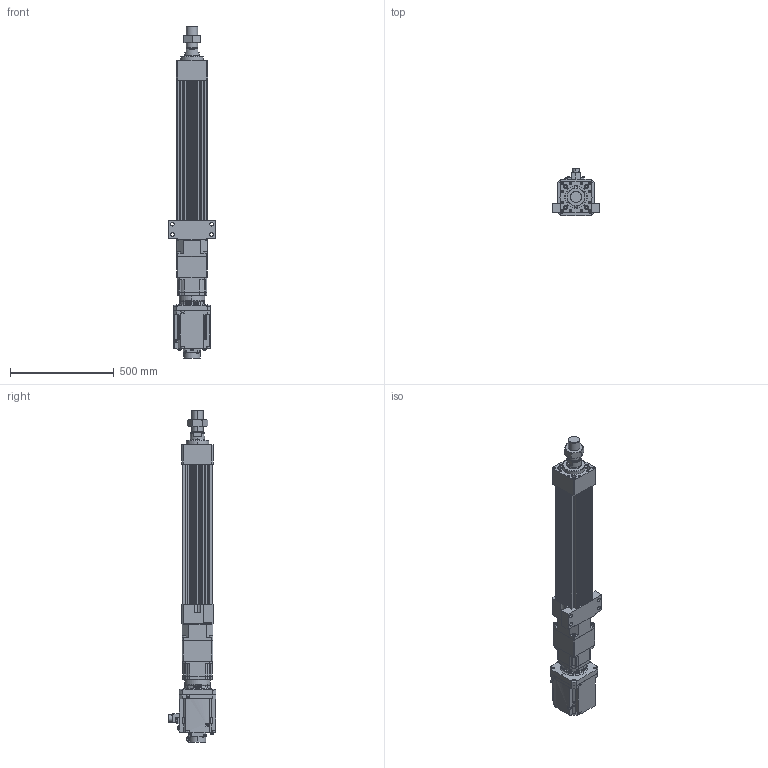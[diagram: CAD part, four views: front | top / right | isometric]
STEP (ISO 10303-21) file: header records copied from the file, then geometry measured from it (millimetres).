
FILE_DESCRIPTION (( 'STEP AP203' ), '1' );
FILE_NAME ('HES150NS(HS)-S400-W050G00-M-FFC.STEP', '2026-06-10T06:42:11', ( 'tms' ), ( '' ), 'SwSTEP 2.0', 'SolidWorks 2013', '' );
FILE_SCHEMA (( 'CONFIG_CONTROL_DESIGN' ));
Length unit declared in the file: millimetre
Products named in the file (9): AB1421; AB1422; M56X2.0P; AB1423; HES150NS(HS)-S400-W050G00-M-FFC; HG-SR502B; HES150-FFC-400; HES150-M-ROD-400; HES150-S-G142
Assembly tree (8 placements, depth 2):
  HES150NS(HS)-S400-W050G00-M-FFC
    HES150-FFC-400
    HES150-M-ROD-400
    M56X2.0P
    HES150-S-G142
    AB1421
    AB1422
    AB1423
    HG-SR502B
Bounding box: 230 x 228.85 x 1603 mm (x, y, z)
Volume: 18665402.1 mm3; surface area: 1936819.8 mm2
Topology: 5 solids, 19 shells, 1588 faces, 4128 edges, 2674 vertices
Faces by surface type: cylinder 726, plane 616, cone 164, bspline 76, torus 6
Entity records: 57568 total; most frequent: CARTESIAN_POINT 17176, DIRECTION 8476, ORIENTED_EDGE 8134, EDGE_CURVE 4089, AXIS2_PLACEMENT_3D 3199, VERTEX_POINT 2674, VECTOR 2078, LINE 2078
